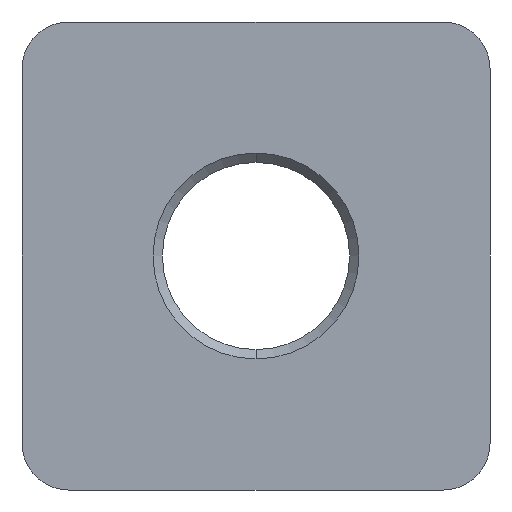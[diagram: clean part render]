
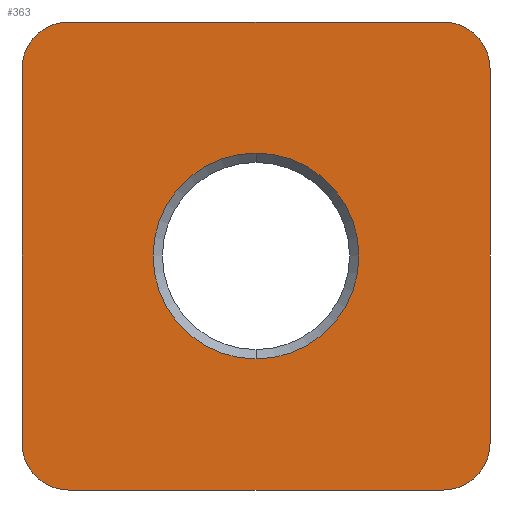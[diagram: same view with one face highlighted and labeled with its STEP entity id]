
A CAD part, front view. The second image highlights one B-rep face of the part: STEP entity #363.
In plain terms, the highlighted planar face has unit normal (0, -1, 0).
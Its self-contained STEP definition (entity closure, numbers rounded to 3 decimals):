
#3 = EDGE_CURVE ( 'NONE', #9, #11, #350, .T. ) ;
#9 = VERTEX_POINT ( 'NONE', #403 ) ;
#11 = VERTEX_POINT ( 'NONE', #402 ) ;
#15 = VERTEX_POINT ( 'NONE', #400 ) ;
#28 = VERTEX_POINT ( 'NONE', #435 ) ;
#37 = EDGE_CURVE ( 'NONE', #15, #28, #429, .T. ) ;
#49 = VERTEX_POINT ( 'NONE', #471 ) ;
#54 = ORIENTED_EDGE ( 'NONE', *, *, #321, .F. ) ;
#55 = ORIENTED_EDGE ( 'NONE', *, *, #319, .F. ) ;
#57 = ORIENTED_EDGE ( 'NONE', *, *, #367, .F. ) ;
#58 = ORIENTED_EDGE ( 'NONE', *, *, #375, .F. ) ;
#60 = ORIENTED_EDGE ( 'NONE', *, *, #37, .F. ) ;
#61 = ORIENTED_EDGE ( 'NONE', *, *, #1154, .F. ) ;
#127 = VERTEX_POINT ( 'NONE', #577 ) ;
#129 = EDGE_CURVE ( 'NONE', #130, #127, #639, .T. ) ;
#130 = VERTEX_POINT ( 'NONE', #634 ) ;
#317 = EDGE_CURVE ( 'NONE', #381, #9, #904, .T. ) ;
#318 = EDGE_LOOP ( 'NONE', ( #364, #329 ) ) ;
#319 = EDGE_CURVE ( 'NONE', #28, #49, #900, .T. ) ;
#321 = EDGE_CURVE ( 'NONE', #49, #362, #895, .T. ) ;
#325 = EDGE_LOOP ( 'NONE', ( #326, #327, #57, #58, #54, #55, #60, #61 ) ) ;
#326 = ORIENTED_EDGE ( 'NONE', *, *, #3, .F. ) ;
#327 = ORIENTED_EDGE ( 'NONE', *, *, #317, .F. ) ;
#328 = EDGE_CURVE ( 'NONE', #127, #130, #942, .T. ) ;
#329 = ORIENTED_EDGE ( 'NONE', *, *, #328, .T. ) ;
#350 = CIRCLE ( 'NONE', #417, 3. ) ;
#358 = VERTEX_POINT ( 'NONE', #978 ) ;
#362 = VERTEX_POINT ( 'NONE', #977 ) ;
#363 = ADVANCED_FACE ( 'NONE', ( #976, #975 ), #974, .F. ) ;
#364 = ORIENTED_EDGE ( 'NONE', *, *, #129, .T. ) ;
#367 = EDGE_CURVE ( 'NONE', #358, #381, #968, .T. ) ;
#375 = EDGE_CURVE ( 'NONE', #362, #358, #953, .T. ) ;
#381 = VERTEX_POINT ( 'NONE', #1000 ) ;
#400 = CARTESIAN_POINT ( 'NONE',  ( -15., 0., 12. ) ) ;
#402 = CARTESIAN_POINT ( 'NONE',  ( -15., 0., -12. ) ) ;
#403 = CARTESIAN_POINT ( 'NONE',  ( -12., 0., -15. ) ) ;
#414 = DIRECTION ( 'NONE',  ( 0., 0., 1. ) ) ;
#415 = DIRECTION ( 'NONE',  ( 0., 1., 0. ) ) ;
#416 = CARTESIAN_POINT ( 'NONE',  ( -12., 0., -12. ) ) ;
#417 = AXIS2_PLACEMENT_3D ( 'NONE', #416, #415, #414 ) ;
#425 = DIRECTION ( 'NONE',  ( 0., 0., -1. ) ) ;
#426 = DIRECTION ( 'NONE',  ( 0., 1., 0. ) ) ;
#427 = CARTESIAN_POINT ( 'NONE',  ( -12., 0., 12. ) ) ;
#428 = AXIS2_PLACEMENT_3D ( 'NONE', #427, #426, #425 ) ;
#429 = CIRCLE ( 'NONE', #428, 3. ) ;
#435 = CARTESIAN_POINT ( 'NONE',  ( -12., 0., 15. ) ) ;
#449 = DIRECTION ( 'NONE',  ( 0., 0., -1. ) ) ;
#450 = VECTOR ( 'NONE', #449, 1000. ) ;
#471 = CARTESIAN_POINT ( 'NONE',  ( 12., 0., 15. ) ) ;
#577 = CARTESIAN_POINT ( 'NONE',  ( 0., 0., 6.6 ) ) ;
#634 = CARTESIAN_POINT ( 'NONE',  ( 0., 0., -6.6 ) ) ;
#635 = DIRECTION ( 'NONE',  ( 0., 0., 1. ) ) ;
#636 = DIRECTION ( 'NONE',  ( 0., 1., 0. ) ) ;
#637 = CARTESIAN_POINT ( 'NONE',  ( 0., 0., 0. ) ) ;
#638 = AXIS2_PLACEMENT_3D ( 'NONE', #637, #636, #635 ) ;
#639 = CIRCLE ( 'NONE', #638, 6.6 ) ;
#891 = DIRECTION ( 'NONE',  ( 0., 0., 1. ) ) ;
#892 = DIRECTION ( 'NONE',  ( 0., 1., 0. ) ) ;
#893 = CARTESIAN_POINT ( 'NONE',  ( 12., 0., 12. ) ) ;
#894 = AXIS2_PLACEMENT_3D ( 'NONE', #893, #892, #891 ) ;
#895 = CIRCLE ( 'NONE', #894, 3. ) ;
#897 = DIRECTION ( 'NONE',  ( 1., 0., 0. ) ) ;
#898 = VECTOR ( 'NONE', #897, 1000. ) ;
#899 = CARTESIAN_POINT ( 'NONE',  ( -12., 0., 15. ) ) ;
#900 = LINE ( 'NONE', #899, #898 ) ;
#901 = DIRECTION ( 'NONE',  ( -1., 0., 0. ) ) ;
#902 = VECTOR ( 'NONE', #901, 1000. ) ;
#903 = CARTESIAN_POINT ( 'NONE',  ( -12., 0., -15. ) ) ;
#904 = LINE ( 'NONE', #903, #902 ) ;
#938 = DIRECTION ( 'NONE',  ( 0., 0., 1. ) ) ;
#939 = DIRECTION ( 'NONE',  ( 0., 1., 0. ) ) ;
#940 = CARTESIAN_POINT ( 'NONE',  ( 0., 0., 0. ) ) ;
#941 = AXIS2_PLACEMENT_3D ( 'NONE', #940, #939, #938 ) ;
#942 = CIRCLE ( 'NONE', #941, 6.6 ) ;
#952 = CARTESIAN_POINT ( 'NONE',  ( 15., 0., 12. ) ) ;
#953 = LINE ( 'NONE', #952, #450 ) ;
#964 = DIRECTION ( 'NONE',  ( 0., 0., -1. ) ) ;
#965 = DIRECTION ( 'NONE',  ( 0., 1., 0. ) ) ;
#966 = CARTESIAN_POINT ( 'NONE',  ( 12., 0., -12. ) ) ;
#967 = AXIS2_PLACEMENT_3D ( 'NONE', #966, #965, #964 ) ;
#968 = CIRCLE ( 'NONE', #967, 3. ) ;
#969 = DIRECTION ( 'NONE',  ( 0., 0., 1. ) ) ;
#970 = DIRECTION ( 'NONE',  ( 0., 1., 0. ) ) ;
#971 = CARTESIAN_POINT ( 'NONE',  ( -12., 0., -12. ) ) ;
#972 = AXIS2_PLACEMENT_3D ( 'NONE', #971, #970, #969 ) ;
#974 = PLANE ( 'NONE',  #972 ) ;
#975 = FACE_OUTER_BOUND ( 'NONE', #325, .T. ) ;
#976 = FACE_BOUND ( 'NONE', #318, .T. ) ;
#977 = CARTESIAN_POINT ( 'NONE',  ( 15., 0., 12. ) ) ;
#978 = CARTESIAN_POINT ( 'NONE',  ( 15., 0., -12. ) ) ;
#1000 = CARTESIAN_POINT ( 'NONE',  ( 12., 0., -15. ) ) ;
#1032 = DIRECTION ( 'NONE',  ( 0., 0., 1. ) ) ;
#1033 = VECTOR ( 'NONE', #1032, 1000. ) ;
#1034 = CARTESIAN_POINT ( 'NONE',  ( -15., 0., 12. ) ) ;
#1035 = LINE ( 'NONE', #1034, #1033 ) ;
#1154 = EDGE_CURVE ( 'NONE', #11, #15, #1035, .T. ) ;
